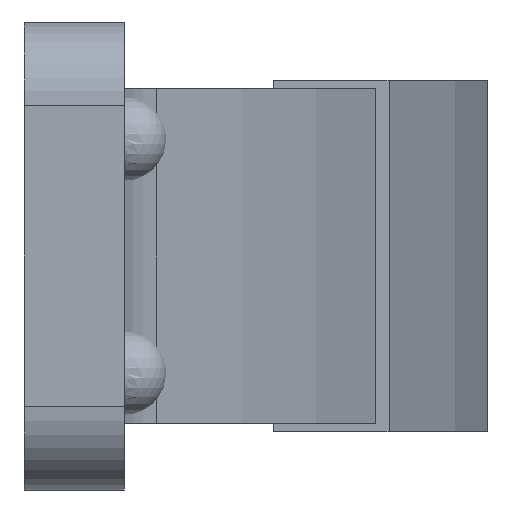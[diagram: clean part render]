
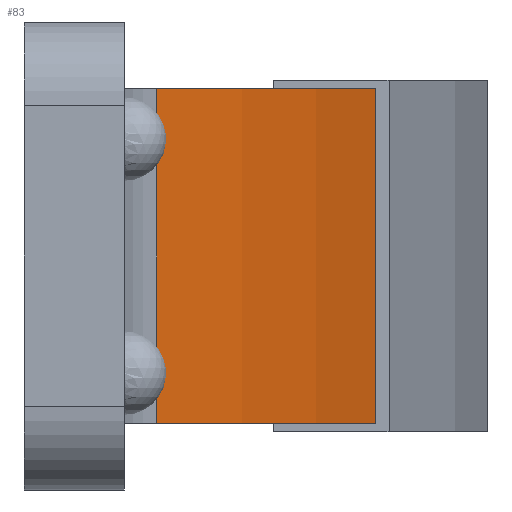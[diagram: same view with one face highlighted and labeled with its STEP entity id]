
A CAD part, left-side view. The second image highlights one B-rep face of the part: STEP entity #83.
In plain terms, the highlighted cylindrical face has radius 78.564 mm (diameter 157.128 mm), a partial arc.
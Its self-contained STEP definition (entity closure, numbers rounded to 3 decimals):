
#83 = ADVANCED_FACE( '', ( #140 ), #141, .T. );
#140 = FACE_OUTER_BOUND( '', #240, .T. );
#141 = CYLINDRICAL_SURFACE( '', #241, 78.564 );
#240 = EDGE_LOOP( '', ( #386, #387, #388, #389 ) );
#241 = AXIS2_PLACEMENT_3D( '', #390, #391, #392 );
#386 = ORIENTED_EDGE( '', *, *, #723, .T. );
#387 = ORIENTED_EDGE( '', *, *, #728, .F. );
#388 = ORIENTED_EDGE( '', *, *, #729, .T. );
#389 = ORIENTED_EDGE( '', *, *, #730, .T. );
#390 = CARTESIAN_POINT( '', ( 48., 51.564, 10. ) );
#391 = DIRECTION( '', ( 0., 0., 1. ) );
#392 = DIRECTION( '', ( -0.653, -0.757, 0. ) );
#723 = EDGE_CURVE( '', #861, #865, #867, .T. );
#728 = EDGE_CURVE( '', #872, #865, #873, .T. );
#729 = EDGE_CURVE( '', #872, #874, #875, .T. );
#730 = EDGE_CURVE( '', #874, #861, #876, .T. );
#861 = VERTEX_POINT( '', #1081 );
#865 = VERTEX_POINT( '', #1087 );
#867 = LINE( '', #1090, #1091 );
#872 = VERTEX_POINT( '', #1096 );
#873 = CIRCLE( '', #1097, 78.564 );
#874 = VERTEX_POINT( '', #1098 );
#875 = LINE( '', #1099, #1100 );
#876 = CIRCLE( '', #1101, 78.564 );
#1081 = CARTESIAN_POINT( '', ( 18., -21.047, -10. ) );
#1087 = CARTESIAN_POINT( '', ( 18., -21.047, 10. ) );
#1090 = CARTESIAN_POINT( '', ( 18., -21.047, 0. ) );
#1091 = VECTOR( '', #1335, 1. );
#1096 = CARTESIAN_POINT( '', ( -3.313, -7.928, 10. ) );
#1097 = AXIS2_PLACEMENT_3D( '', #1348, #1349, #1350 );
#1098 = CARTESIAN_POINT( '', ( -3.313, -7.928, -10. ) );
#1099 = CARTESIAN_POINT( '', ( -3.313, -7.928, 10. ) );
#1100 = VECTOR( '', #1351, 1. );
#1101 = AXIS2_PLACEMENT_3D( '', #1352, #1353, #1354 );
#1335 = DIRECTION( '', ( 0., 0., 1. ) );
#1348 = CARTESIAN_POINT( '', ( 48., 51.564, 10. ) );
#1349 = DIRECTION( '', ( 0., 0., 1. ) );
#1350 = DIRECTION( '', ( -0.653, -0.757, 0. ) );
#1351 = DIRECTION( '', ( 0., 0., -1. ) );
#1352 = CARTESIAN_POINT( '', ( 48., 51.564, -10. ) );
#1353 = DIRECTION( '', ( 0., 0., 1. ) );
#1354 = DIRECTION( '', ( -0.653, -0.757, 0. ) );
